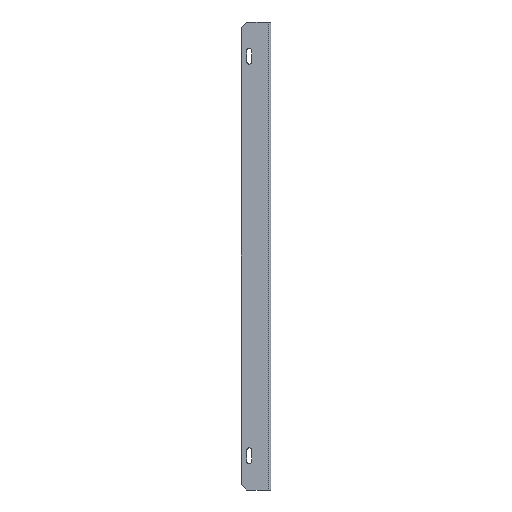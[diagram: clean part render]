
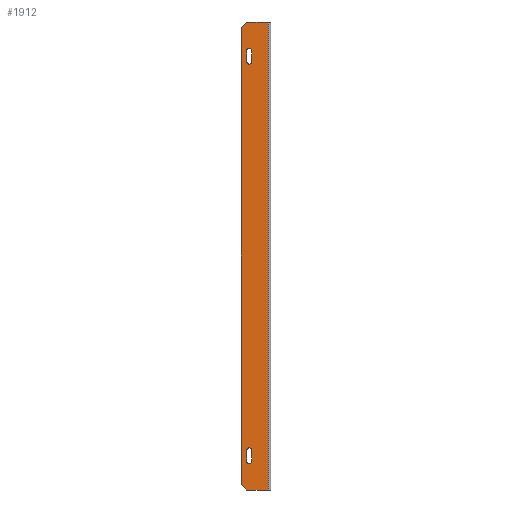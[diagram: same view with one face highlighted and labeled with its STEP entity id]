
A CAD part, left-side view. The second image highlights one B-rep face of the part: STEP entity #1912.
In plain terms, the highlighted planar face has unit normal (-1, 0, 0).
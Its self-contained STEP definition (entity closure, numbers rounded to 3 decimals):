
#52 = EDGE_CURVE ( 'NONE', #1833, #1808, #1083, .T. ) ;
#73 = EDGE_CURVE ( 'NONE', #1846, #1837, #1119, .T. ) ;
#84 = EDGE_CURVE ( 'NONE', #1459, #1826, #1136, .T. ) ;
#85 = EDGE_CURVE ( 'NONE', #1467, #1459, #1132, .T. ) ;
#86 = EDGE_CURVE ( 'NONE', #1845, #1467, #1138, .T. ) ;
#87 = EDGE_CURVE ( 'NONE', #1826, #1845, #1140, .T. ) ;
#88 = EDGE_CURVE ( 'NONE', #1458, #1839, #1141, .T. ) ;
#89 = EDGE_CURVE ( 'NONE', #1838, #1458, #1143, .T. ) ;
#90 = EDGE_CURVE ( 'NONE', #1844, #1838, #1144, .T. ) ;
#91 = EDGE_CURVE ( 'NONE', #1839, #1844, #1146, .T. ) ;
#92 = EDGE_CURVE ( 'NONE', #1833, #1846, #1147, .T. ) ;
#93 = EDGE_CURVE ( 'NONE', #1837, #1841, #1150, .T. ) ;
#94 = EDGE_CURVE ( 'NONE', #1841, #1834, #1152, .T. ) ;
#95 = EDGE_CURVE ( 'NONE', #1808, #1834, #1154, .T. ) ;
#305 = DIRECTION ( 'NONE',  ( 1., 0., 0. ) ) ;
#310 = CARTESIAN_POINT ( 'NONE',  ( 0., 41.5, 325. ) ) ;
#312 = PLANE ( 'NONE',  #676 ) ;
#314 = DIRECTION ( 'NONE',  ( 0., 1., 0. ) ) ;
#475 = FACE_OUTER_BOUND ( 'NONE', #779, .T. ) ;
#482 = FACE_BOUND ( 'NONE', #781, .T. ) ;
#485 = FACE_BOUND ( 'NONE', #783, .T. ) ;
#676 = AXIS2_PLACEMENT_3D ( 'NONE', #310, #305, #314 ) ;
#779 = EDGE_LOOP ( 'NONE', ( #1599, #1598, #1597, #1596, #1595, #1594 ) ) ;
#781 = EDGE_LOOP ( 'NONE', ( #1607, #1606, #1605, #1604 ) ) ;
#783 = EDGE_LOOP ( 'NONE', ( #1603, #1602, #1601, #1600 ) ) ;
#1083 = LINE ( 'NONE', #2225, #1086 ) ;
#1086 = VECTOR ( 'NONE', #2224, 1000. ) ;
#1119 = LINE ( 'NONE', #2252, #1122 ) ;
#1122 = VECTOR ( 'NONE', #2247, 1000. ) ;
#1132 = CIRCLE ( 'NONE', #1982, 3.5 ) ;
#1136 = LINE ( 'NONE', #2209, #1139 ) ;
#1138 = LINE ( 'NONE', #2203, #1142 ) ;
#1139 = VECTOR ( 'NONE', #2206, 1000. ) ;
#1140 = CIRCLE ( 'NONE', #1983, 3.5 ) ;
#1141 = LINE ( 'NONE', #2198, #1145 ) ;
#1142 = VECTOR ( 'NONE', #2208, 1000. ) ;
#1143 = CIRCLE ( 'NONE', #1984, 3.5 ) ;
#1144 = LINE ( 'NONE', #2193, #1148 ) ;
#1145 = VECTOR ( 'NONE', #2199, 1000. ) ;
#1146 = CIRCLE ( 'NONE', #1985, 3.5 ) ;
#1147 = LINE ( 'NONE', #2186, #1151 ) ;
#1148 = VECTOR ( 'NONE', #2194, 1000. ) ;
#1150 = LINE ( 'NONE', #2182, #1153 ) ;
#1151 = VECTOR ( 'NONE', #2189, 1000. ) ;
#1152 = LINE ( 'NONE', #2180, #1155 ) ;
#1153 = VECTOR ( 'NONE', #2181, 1000. ) ;
#1154 = LINE ( 'NONE', #2178, #1157 ) ;
#1155 = VECTOR ( 'NONE', #2179, 1000. ) ;
#1157 = VECTOR ( 'NONE', #2177, 1000. ) ;
#1458 = VERTEX_POINT ( 'NONE', #2348 ) ;
#1459 = VERTEX_POINT ( 'NONE', #2350 ) ;
#1467 = VERTEX_POINT ( 'NONE', #2351 ) ;
#1594 = ORIENTED_EDGE ( 'NONE', *, *, #95, .F. ) ;
#1595 = ORIENTED_EDGE ( 'NONE', *, *, #94, .T. ) ;
#1596 = ORIENTED_EDGE ( 'NONE', *, *, #93, .T. ) ;
#1597 = ORIENTED_EDGE ( 'NONE', *, *, #73, .T. ) ;
#1598 = ORIENTED_EDGE ( 'NONE', *, *, #92, .T. ) ;
#1599 = ORIENTED_EDGE ( 'NONE', *, *, #52, .F. ) ;
#1600 = ORIENTED_EDGE ( 'NONE', *, *, #91, .F. ) ;
#1601 = ORIENTED_EDGE ( 'NONE', *, *, #90, .F. ) ;
#1602 = ORIENTED_EDGE ( 'NONE', *, *, #89, .F. ) ;
#1603 = ORIENTED_EDGE ( 'NONE', *, *, #88, .F. ) ;
#1604 = ORIENTED_EDGE ( 'NONE', *, *, #87, .F. ) ;
#1605 = ORIENTED_EDGE ( 'NONE', *, *, #86, .F. ) ;
#1606 = ORIENTED_EDGE ( 'NONE', *, *, #85, .F. ) ;
#1607 = ORIENTED_EDGE ( 'NONE', *, *, #84, .F. ) ;
#1808 = VERTEX_POINT ( 'NONE', #2445 ) ;
#1826 = VERTEX_POINT ( 'NONE', #2461 ) ;
#1833 = VERTEX_POINT ( 'NONE', #2468 ) ;
#1834 = VERTEX_POINT ( 'NONE', #2469 ) ;
#1837 = VERTEX_POINT ( 'NONE', #2472 ) ;
#1838 = VERTEX_POINT ( 'NONE', #2473 ) ;
#1839 = VERTEX_POINT ( 'NONE', #2474 ) ;
#1841 = VERTEX_POINT ( 'NONE', #2476 ) ;
#1844 = VERTEX_POINT ( 'NONE', #2479 ) ;
#1845 = VERTEX_POINT ( 'NONE', #2480 ) ;
#1846 = VERTEX_POINT ( 'NONE', #2481 ) ;
#1912 = ADVANCED_FACE ( 'NONE', ( #482, #485, #475 ), #312, .F. ) ;
#1982 = AXIS2_PLACEMENT_3D ( 'NONE', #2202, #2201, #2200 ) ;
#1983 = AXIS2_PLACEMENT_3D ( 'NONE', #2197, #2196, #2195 ) ;
#1984 = AXIS2_PLACEMENT_3D ( 'NONE', #2192, #2191, #2190 ) ;
#1985 = AXIS2_PLACEMENT_3D ( 'NONE', #2185, #2184, #2183 ) ;
#2177 = DIRECTION ( 'NONE',  ( 0., 0., -1. ) ) ;
#2178 = CARTESIAN_POINT ( 'NONE',  ( 0., 3.5, 325. ) ) ;
#2179 = DIRECTION ( 'NONE',  ( 0., -1., 0. ) ) ;
#2180 = CARTESIAN_POINT ( 'NONE',  ( 0., 41.5, -325. ) ) ;
#2181 = DIRECTION ( 'NONE',  ( 0., -0.707, -0.707 ) ) ;
#2182 = CARTESIAN_POINT ( 'NONE',  ( 0., 33.7, -325. ) ) ;
#2183 = DIRECTION ( 'NONE',  ( 0., 1., 0. ) ) ;
#2184 = DIRECTION ( 'NONE',  ( -1., 0., 0. ) ) ;
#2185 = CARTESIAN_POINT ( 'NONE',  ( 0., 30., -270. ) ) ;
#2186 = CARTESIAN_POINT ( 'NONE',  ( 0., 41.5, 317.2 ) ) ;
#2189 = DIRECTION ( 'NONE',  ( 0., 0.707, -0.707 ) ) ;
#2190 = DIRECTION ( 'NONE',  ( 0., -1., 0. ) ) ;
#2191 = DIRECTION ( 'NONE',  ( -1., 0., 0. ) ) ;
#2192 = CARTESIAN_POINT ( 'NONE',  ( 0., 30., -285. ) ) ;
#2193 = CARTESIAN_POINT ( 'NONE',  ( 0., 33.5, -285. ) ) ;
#2194 = DIRECTION ( 'NONE',  ( 0., 0., -1. ) ) ;
#2195 = DIRECTION ( 'NONE',  ( 0., -1., 0. ) ) ;
#2196 = DIRECTION ( 'NONE',  ( -1., 0., 0. ) ) ;
#2197 = CARTESIAN_POINT ( 'NONE',  ( 0., 30., 270. ) ) ;
#2198 = CARTESIAN_POINT ( 'NONE',  ( 0., 26.5, -285. ) ) ;
#2199 = DIRECTION ( 'NONE',  ( 0., 0., 1. ) ) ;
#2200 = DIRECTION ( 'NONE',  ( 0., 1., 0. ) ) ;
#2201 = DIRECTION ( 'NONE',  ( -1., 0., 0. ) ) ;
#2202 = CARTESIAN_POINT ( 'NONE',  ( 0., 30., 285. ) ) ;
#2203 = CARTESIAN_POINT ( 'NONE',  ( 0., 26.5, 285. ) ) ;
#2206 = DIRECTION ( 'NONE',  ( 0., 0., -1. ) ) ;
#2208 = DIRECTION ( 'NONE',  ( 0., 0., 1. ) ) ;
#2209 = CARTESIAN_POINT ( 'NONE',  ( 0., 33.5, 285. ) ) ;
#2224 = DIRECTION ( 'NONE',  ( 0., -1., 0. ) ) ;
#2225 = CARTESIAN_POINT ( 'NONE',  ( 0., 41.5, 325. ) ) ;
#2247 = DIRECTION ( 'NONE',  ( 0., 0., -1. ) ) ;
#2252 = CARTESIAN_POINT ( 'NONE',  ( 0., 41.5, 325. ) ) ;
#2348 = CARTESIAN_POINT ( 'NONE',  ( 0., 26.5, -285. ) ) ;
#2350 = CARTESIAN_POINT ( 'NONE',  ( 0., 33.5, 285. ) ) ;
#2351 = CARTESIAN_POINT ( 'NONE',  ( 0., 26.5, 285. ) ) ;
#2445 = CARTESIAN_POINT ( 'NONE',  ( 0., 3.5, 325. ) ) ;
#2461 = CARTESIAN_POINT ( 'NONE',  ( 0., 33.5, 270. ) ) ;
#2468 = CARTESIAN_POINT ( 'NONE',  ( 0., 33.7, 325. ) ) ;
#2469 = CARTESIAN_POINT ( 'NONE',  ( 0., 3.5, -325. ) ) ;
#2472 = CARTESIAN_POINT ( 'NONE',  ( 0., 41.5, -317.2 ) ) ;
#2473 = CARTESIAN_POINT ( 'NONE',  ( 0., 33.5, -285. ) ) ;
#2474 = CARTESIAN_POINT ( 'NONE',  ( 0., 26.5, -270. ) ) ;
#2476 = CARTESIAN_POINT ( 'NONE',  ( 0., 33.7, -325. ) ) ;
#2479 = CARTESIAN_POINT ( 'NONE',  ( 0., 33.5, -270. ) ) ;
#2480 = CARTESIAN_POINT ( 'NONE',  ( 0., 26.5, 270. ) ) ;
#2481 = CARTESIAN_POINT ( 'NONE',  ( 0., 41.5, 317.2 ) ) ;
